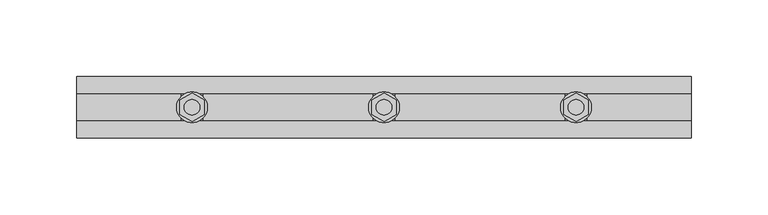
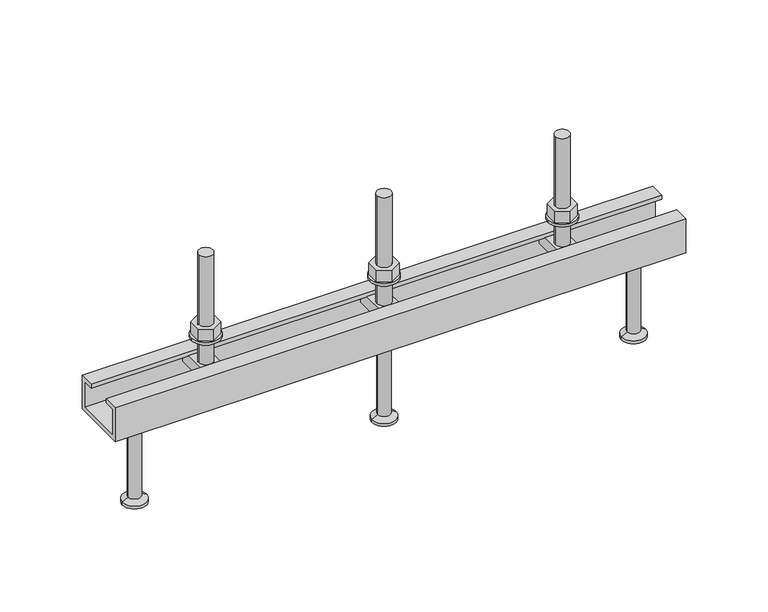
"""IFC4 building model written with IfcOpenShell, lengths in millimetres: fastener geometry, JTA-K JORDAHL® AnchorChannels : JTA-K L=400 mm."""

from ifc_helpers import new_model, si_unit, point, frame, frame_2d, origin, place, context, project, spatial, polyline, circle_curve, trimmed, segment, composite_curve, outline, extrude, source, transform, mapped, element, save
from ifc_brep_helpers import plane_surface, cylinder_surface, revolved_surface, advanced_brep


def fastener_97376ea7(model_context):
    return source(origin(), model_context, "Body", "SolidModel", [
        extrude(outline(polyline([(200.0, -9.2376043), (192.0, -4.6188022), (192.0, 4.6188022), (200.0, 9.2376043), (208.0, 4.6188022), (208.0, -4.6188022), (200.0, -9.2376043)]), holes=[composite_curve([segment(trimmed(circle_curve(frame_2d((200.0, 0.0)), 5.0), [point((195.0, 0.0))], [point((205.0, 0.0))], True, "CARTESIAN"), True, "CONTINUOUS"), segment(trimmed(circle_curve(frame_2d((200.0, 0.0)), 5.0), [point((205.0, 0.0))], [point((195.0, 0.0))], True, "CARTESIAN"), True, "CONTINUOUS")], self_intersect=False)]), frame((0.0, 0.0, 17.0), z_axis=(0.0, 0.0, 1.0), x_axis=(1.0, 0.0, 0.0)), (0.0, 0.0, 1.0), 8.4),
        extrude(outline(composite_curve([segment(trimmed(circle_curve(frame_2d((200.0, 0.0)), 10.0), [point((190.0, 0.0))], [point((210.0, 0.0))], False, "CARTESIAN"), True, "CONTINUOUS"), segment(trimmed(circle_curve(frame_2d((200.0, 0.0)), 10.0), [point((210.0, 0.0))], [point((190.0, 0.0))], False, "CARTESIAN"), True, "CONTINUOUS")], self_intersect=False), holes=[composite_curve([segment(trimmed(circle_curve(frame_2d((200.0, 0.0)), 5.25), [point((194.75, 0.0))], [point((205.25, 0.0))], True, "CARTESIAN"), True, "CONTINUOUS"), segment(trimmed(circle_curve(frame_2d((200.0, 0.0)), 5.25), [point((205.25, 0.0))], [point((194.75, 0.0))], True, "CARTESIAN"), True, "CONTINUOUS")], self_intersect=False)]), frame((0.0, 0.0, 15.0), z_axis=(0.0, 0.0, 1.0), x_axis=(1.0, 0.0, 0.0)), (0.0, 0.0, 1.0), 2.0),
        advanced_brep(
        [(207.0, -16.0, -3.0), (207.0, -16.0, -11.0), (207.0, 16.0, -11.0), (207.0, 16.0, -3.0), (193.0, -16.0, -3.0), (193.0, 16.0, -3.0), (193.0, 16.0, -11.0), (193.0, -16.0, -11.0), (205.0, 0.0, -3.0), (195.0, 0.0, -3.0), (195.0, 0.0, 77.0), (205.0, 0.0, 77.0)],
        [
            (0, 1),
            (1, 2),
            (2, 3),
            (3, 0),
            (4, 5),
            (5, 6),
            (6, 7),
            (7, 4),
            (3, 5),
            (4, 0),
            (8, 9, circle_curve(frame((200.0, 0.0, -3.0), z_axis=(0.0, 0.0, -1.0), x_axis=(1.0, 0.0, 0.0)), 5.0)),
            (9, 8, circle_curve(frame((200.0, 0.0, -3.0), z_axis=(0.0, 0.0, -1.0), x_axis=(1.0, 0.0, 0.0)), 5.0)),
            (2, 6),
            (1, 7),
            (10, 11, circle_curve(frame((200.0, 0.0, 77.0), z_axis=(0.0, 0.0, 1.0), x_axis=(1.0, 0.0, 0.0)), 5.0)),
            (11, 10, circle_curve(frame((200.0, 0.0, 77.0), z_axis=(0.0, 0.0, 1.0), x_axis=(1.0, 0.0, 0.0)), 5.0)),
            (11, 8),
            (9, 10),
        ],
        [
            plane_surface(frame((207.0, 16.0, -3.0), z_axis=(1.0, 0.0, 0.0), x_axis=(0.0, 1.0, 0.0))),
            plane_surface(frame((193.0, 16.0, -3.0), z_axis=(-1.0, 0.0, 0.0), x_axis=(0.0, -1.0, 0.0))),
            plane_surface(frame((207.0, -16.0, -3.0), z_axis=(0.0, 0.0, 1.0), x_axis=(-1.0, 0.0, 0.0))),
            plane_surface(frame((207.0, 16.0, -3.0), z_axis=(0.0, 1.0, 0.0), x_axis=(-1.0, 0.0, 0.0))),
            plane_surface(frame((207.0, 16.0, -11.0), z_axis=(0.0, 0.0, -1.0), x_axis=(-1.0, 0.0, 0.0))),
            plane_surface(frame((207.0, -16.0, -11.0), z_axis=(0.0, -1.0, 0.0), x_axis=(-1.0, 0.0, 0.0))),
            plane_surface(frame((205.0, 0.0, 77.0), z_axis=(0.0, 0.0, 1.0), x_axis=(0.0, -1.0, 0.0))),
            cylinder_surface(frame((200.0, 0.0, -3.0), z_axis=(0.0, 0.0, 1.0), x_axis=(1.0, 0.0, 0.0)), 5.0),
        ],
        [
            (0, [[1, 2, 3, 4]]),
            (1, [[5, 6, 7, 8]]),
            (2, [[9, -5, 10, -4], [11, 12]]),
            (3, [[13, -6, -9, -3]]),
            (4, [[14, -7, -13, -2]]),
            (5, [[-10, -8, -14, -1]]),
            (6, [[15, 16]]),
            (7, [[17, -12, 18, -16]]),
            (7, [[-18, -11, -17, -15]]),
        ],
    ),
        advanced_brep(
        [(200.0, 0.0, -25.0), (186.5, 0.0, -25.0), (213.5, 0.0, -25.0), (191.5, 0.0, -90.0), (200.0, 0.0, -90.0), (208.5, 0.0, -90.0), (191.5, 0.0, -88.0), (208.5, 0.0, -88.0), (195.5, 0.0, -85.6905989), (204.5, 0.0, -85.6905989), (195.5, 0.0, -27.5), (204.5, 0.0, -27.5)],
        [
            (0, 1),
            (1, 2, circle_curve(frame((200.0, 0.0, -25.0), z_axis=(0.0, 0.0, 1.0), x_axis=(1.0, 0.0, 0.0)), 13.5)),
            (2, 0),
            (2, 1, circle_curve(frame((200.0, 0.0, -25.0), z_axis=(0.0, 0.0, 1.0), x_axis=(1.0, 0.0, 0.0)), 13.5)),
            (3, 4),
            (4, 5),
            (5, 3, circle_curve(frame((200.0, 0.0, -90.0), z_axis=(0.0, 0.0, -1.0), x_axis=(1.0, 0.0, 0.0)), 8.5)),
            (3, 5, circle_curve(frame((200.0, 0.0, -90.0), z_axis=(0.0, 0.0, -1.0), x_axis=(1.0, 0.0, 0.0)), 8.5)),
            (6, 3),
            (5, 7),
            (7, 6, circle_curve(frame((200.0, 0.0, -88.0), z_axis=(0.0, 0.0, -1.0), x_axis=(1.0, 0.0, 0.0)), 8.5)),
            (6, 7, circle_curve(frame((200.0, 0.0, -88.0), z_axis=(0.0, 0.0, -1.0), x_axis=(1.0, 0.0, 0.0)), 8.5)),
            (8, 6),
            (7, 9),
            (9, 8, circle_curve(frame((200.0, 0.0, -85.6905989), z_axis=(0.0, 0.0, -1.0), x_axis=(1.0, 0.0, 0.0)), 4.5)),
            (8, 9, circle_curve(frame((200.0, 0.0, -85.6905989), z_axis=(0.0, 0.0, -1.0), x_axis=(1.0, 0.0, 0.0)), 4.5)),
            (10, 8),
            (9, 11),
            (11, 10, circle_curve(frame((200.0, 0.0, -27.5), z_axis=(0.0, 0.0, -1.0), x_axis=(1.0, 0.0, 0.0)), 4.5)),
            (10, 11, circle_curve(frame((200.0, 0.0, -27.5), z_axis=(0.0, 0.0, -1.0), x_axis=(1.0, 0.0, 0.0)), 4.5)),
            (1, 10),
            (11, 2),
        ],
        [
            plane_surface(frame((200.0, 0.0, -25.0), z_axis=(0.0, 0.0, 1.0), x_axis=(1.0, 0.0, 0.0))),
            plane_surface(frame((200.0, 0.0, -90.0), z_axis=(0.0, 0.0, -1.0), x_axis=(1.0, 0.0, 0.0))),
            cylinder_surface(frame((200.0, 0.0, 2279.3150031), z_axis=(0.0, 0.0, 1.0), x_axis=(1.0, 0.0, 0.0)), 8.5),
            revolved_surface(polyline([(208.5, 0.0, -88.0), (204.5, 0.0, -85.6905989)]), (200.0, 0.0, 2279.3150031), (0.0, 0.0, 1.0)),
            cylinder_surface(frame((200.0, 0.0, 2279.3150031), z_axis=(0.0, 0.0, 1.0), x_axis=(1.0, 0.0, 0.0)), 4.5),
            revolved_surface(polyline([(204.5, 0.0, -27.5), (213.5, 0.0, -25.0)]), (200.0, 0.0, 2279.3150031), (0.0, 0.0, 1.0)),
        ],
        [
            (0, [[1, 2, 3]]),
            (0, [[-3, 4, -1]]),
            (1, [[5, 6, 7]]),
            (1, [[-6, -5, 8]]),
            (2, [[9, -7, 10, 11]]),
            (2, [[-10, -8, -9, 12]]),
            (3, [[13, -11, 14, 15]]),
            (3, [[-14, -12, -13, 16]]),
            (4, [[17, -15, 18, 19]]),
            (4, [[-18, -16, -17, 20]]),
            (5, [[21, -19, 22, -2]]),
            (5, [[-22, -20, -21, -4]]),
        ],
    ),
        extrude(outline(polyline([(325.0, -9.2376043), (317.0, -4.6188022), (317.0, 4.6188022), (325.0, 9.2376043), (333.0, 4.6188022), (333.0, -4.6188022), (325.0, -9.2376043)]), holes=[composite_curve([segment(trimmed(circle_curve(frame_2d((325.0, 0.0)), 5.0), [point((320.0, 0.0))], [point((330.0, 0.0))], True, "CARTESIAN"), True, "CONTINUOUS"), segment(trimmed(circle_curve(frame_2d((325.0, 0.0)), 5.0), [point((330.0, 0.0))], [point((320.0, 0.0))], True, "CARTESIAN"), True, "CONTINUOUS")], self_intersect=False)]), frame((0.0, 0.0, 17.0), z_axis=(0.0, 0.0, 1.0), x_axis=(1.0, 0.0, 0.0)), (0.0, 0.0, 1.0), 8.4),
        extrude(outline(composite_curve([segment(trimmed(circle_curve(frame_2d((325.0, 0.0)), 10.0), [point((315.0, 0.0))], [point((335.0, 0.0))], False, "CARTESIAN"), True, "CONTINUOUS"), segment(trimmed(circle_curve(frame_2d((325.0, 0.0)), 10.0), [point((335.0, 0.0))], [point((315.0, 0.0))], False, "CARTESIAN"), True, "CONTINUOUS")], self_intersect=False), holes=[composite_curve([segment(trimmed(circle_curve(frame_2d((325.0, 0.0)), 5.25), [point((319.75, 0.0))], [point((330.25, 0.0))], True, "CARTESIAN"), True, "CONTINUOUS"), segment(trimmed(circle_curve(frame_2d((325.0, 0.0)), 5.25), [point((330.25, 0.0))], [point((319.75, 0.0))], True, "CARTESIAN"), True, "CONTINUOUS")], self_intersect=False)]), frame((0.0, 0.0, 15.0), z_axis=(0.0, 0.0, 1.0), x_axis=(1.0, 0.0, 0.0)), (0.0, 0.0, 1.0), 2.0),
        extrude(outline(polyline([(75.0, -9.2376043), (67.0, -4.6188022), (67.0, 4.6188022), (75.0, 9.2376043), (83.0, 4.6188022), (83.0, -4.6188022), (75.0, -9.2376043)]), holes=[composite_curve([segment(trimmed(circle_curve(frame_2d((75.0, 0.0)), 5.0), [point((70.0, 0.0))], [point((80.0, 0.0))], True, "CARTESIAN"), True, "CONTINUOUS"), segment(trimmed(circle_curve(frame_2d((75.0, 0.0)), 5.0), [point((80.0, 0.0))], [point((70.0, 0.0))], True, "CARTESIAN"), True, "CONTINUOUS")], self_intersect=False)]), frame((0.0, 0.0, 17.0), z_axis=(0.0, 0.0, 1.0), x_axis=(1.0, 0.0, 0.0)), (0.0, 0.0, 1.0), 8.4),
        extrude(outline(composite_curve([segment(trimmed(circle_curve(frame_2d((75.0, 0.0)), 10.0), [point((65.0, 0.0))], [point((85.0, 0.0))], False, "CARTESIAN"), True, "CONTINUOUS"), segment(trimmed(circle_curve(frame_2d((75.0, 0.0)), 10.0), [point((85.0, 0.0))], [point((65.0, 0.0))], False, "CARTESIAN"), True, "CONTINUOUS")], self_intersect=False), holes=[composite_curve([segment(trimmed(circle_curve(frame_2d((75.0, 0.0)), 5.25), [point((69.75, 0.0))], [point((80.25, 0.0))], True, "CARTESIAN"), True, "CONTINUOUS"), segment(trimmed(circle_curve(frame_2d((75.0, 0.0)), 5.25), [point((80.25, 0.0))], [point((69.75, 0.0))], True, "CARTESIAN"), True, "CONTINUOUS")], self_intersect=False)]), frame((0.0, 0.0, 15.0), z_axis=(0.0, 0.0, 1.0), x_axis=(1.0, 0.0, 0.0)), (0.0, 0.0, 1.0), 2.0),
        advanced_brep(
        [(332.0, -16.0, -3.0), (332.0, -16.0, -11.0), (332.0, 16.0, -11.0), (332.0, 16.0, -3.0), (318.0, -16.0, -3.0), (318.0, 16.0, -3.0), (318.0, 16.0, -11.0), (318.0, -16.0, -11.0), (330.0, 0.0, -3.0), (320.0, 0.0, -3.0), (320.0, 0.0, 77.0), (330.0, 0.0, 77.0)],
        [
            (0, 1),
            (1, 2),
            (2, 3),
            (3, 0),
            (4, 5),
            (5, 6),
            (6, 7),
            (7, 4),
            (3, 5),
            (4, 0),
            (8, 9, circle_curve(frame((325.0, 0.0, -3.0), z_axis=(0.0, 0.0, -1.0), x_axis=(1.0, 0.0, 0.0)), 5.0)),
            (9, 8, circle_curve(frame((325.0, 0.0, -3.0), z_axis=(0.0, 0.0, -1.0), x_axis=(1.0, 0.0, 0.0)), 5.0)),
            (2, 6),
            (1, 7),
            (10, 11, circle_curve(frame((325.0, 0.0, 77.0), z_axis=(0.0, 0.0, 1.0), x_axis=(1.0, 0.0, 0.0)), 5.0)),
            (11, 10, circle_curve(frame((325.0, 0.0, 77.0), z_axis=(0.0, 0.0, 1.0), x_axis=(1.0, 0.0, 0.0)), 5.0)),
            (11, 8),
            (9, 10),
        ],
        [
            plane_surface(frame((332.0, 16.0, -3.0), z_axis=(1.0, 0.0, 0.0), x_axis=(0.0, 1.0, 0.0))),
            plane_surface(frame((318.0, 16.0, -3.0), z_axis=(-1.0, 0.0, 0.0), x_axis=(0.0, -1.0, 0.0))),
            plane_surface(frame((332.0, -16.0, -3.0), z_axis=(0.0, 0.0, 1.0), x_axis=(-1.0, 0.0, 0.0))),
            plane_surface(frame((332.0, 16.0, -3.0), z_axis=(0.0, 1.0, 0.0), x_axis=(-1.0, 0.0, 0.0))),
            plane_surface(frame((332.0, 16.0, -11.0), z_axis=(0.0, 0.0, -1.0), x_axis=(-1.0, 0.0, 0.0))),
            plane_surface(frame((332.0, -16.0, -11.0), z_axis=(0.0, -1.0, 0.0), x_axis=(-1.0, 0.0, 0.0))),
            plane_surface(frame((330.0, 0.0, 77.0), z_axis=(0.0, 0.0, 1.0), x_axis=(0.0, -1.0, 0.0))),
            cylinder_surface(frame((325.0, 0.0, -3.0), z_axis=(0.0, 0.0, 1.0), x_axis=(1.0, 0.0, 0.0)), 5.0),
        ],
        [
            (0, [[1, 2, 3, 4]]),
            (1, [[5, 6, 7, 8]]),
            (2, [[9, -5, 10, -4], [11, 12]]),
            (3, [[13, -6, -9, -3]]),
            (4, [[14, -7, -13, -2]]),
            (5, [[-10, -8, -14, -1]]),
            (6, [[15, 16]]),
            (7, [[17, -12, 18, -16]]),
            (7, [[-18, -11, -17, -15]]),
        ],
    ),
        advanced_brep(
        [(82.0, -16.0, -3.0), (82.0, -16.0, -11.0), (82.0, 16.0, -11.0), (82.0, 16.0, -3.0), (68.0, -16.0, -3.0), (68.0, 16.0, -3.0), (68.0, 16.0, -11.0), (68.0, -16.0, -11.0), (80.0, 0.0, -3.0), (70.0, 0.0, -3.0), (70.0, 0.0, 77.0), (80.0, 0.0, 77.0)],
        [
            (0, 1),
            (1, 2),
            (2, 3),
            (3, 0),
            (4, 5),
            (5, 6),
            (6, 7),
            (7, 4),
            (3, 5),
            (4, 0),
            (8, 9, circle_curve(frame((75.0, 0.0, -3.0), z_axis=(0.0, 0.0, -1.0), x_axis=(1.0, 0.0, 0.0)), 5.0)),
            (9, 8, circle_curve(frame((75.0, 0.0, -3.0), z_axis=(0.0, 0.0, -1.0), x_axis=(1.0, 0.0, 0.0)), 5.0)),
            (2, 6),
            (1, 7),
            (10, 11, circle_curve(frame((75.0, 0.0, 77.0), z_axis=(0.0, 0.0, 1.0), x_axis=(1.0, 0.0, 0.0)), 5.0)),
            (11, 10, circle_curve(frame((75.0, 0.0, 77.0), z_axis=(0.0, 0.0, 1.0), x_axis=(1.0, 0.0, 0.0)), 5.0)),
            (11, 8),
            (9, 10),
        ],
        [
            plane_surface(frame((82.0, 16.0, -3.0), z_axis=(1.0, 0.0, 0.0), x_axis=(0.0, 1.0, 0.0))),
            plane_surface(frame((68.0, 16.0, -3.0), z_axis=(-1.0, 0.0, 0.0), x_axis=(0.0, -1.0, 0.0))),
            plane_surface(frame((82.0, -16.0, -3.0), z_axis=(0.0, 0.0, 1.0), x_axis=(-1.0, 0.0, 0.0))),
            plane_surface(frame((82.0, 16.0, -3.0), z_axis=(0.0, 1.0, 0.0), x_axis=(-1.0, 0.0, 0.0))),
            plane_surface(frame((82.0, 16.0, -11.0), z_axis=(0.0, 0.0, -1.0), x_axis=(-1.0, 0.0, 0.0))),
            plane_surface(frame((82.0, -16.0, -11.0), z_axis=(0.0, -1.0, 0.0), x_axis=(-1.0, 0.0, 0.0))),
            plane_surface(frame((80.0, 0.0, 77.0), z_axis=(0.0, 0.0, 1.0), x_axis=(0.0, -1.0, 0.0))),
            cylinder_surface(frame((75.0, 0.0, -3.0), z_axis=(0.0, 0.0, 1.0), x_axis=(1.0, 0.0, 0.0)), 5.0),
        ],
        [
            (0, [[1, 2, 3, 4]]),
            (1, [[5, 6, 7, 8]]),
            (2, [[9, -5, 10, -4], [11, 12]]),
            (3, [[13, -6, -9, -3]]),
            (4, [[14, -7, -13, -2]]),
            (5, [[-10, -8, -14, -1]]),
            (6, [[15, 16]]),
            (7, [[17, -12, 18, -16]]),
            (7, [[-18, -11, -17, -15]]),
        ],
    ),
        advanced_brep(
        [(375.0, 0.0, -25.0), (361.5, 0.0, -25.0), (388.5, 0.0, -25.0), (366.5, 0.0, -90.0), (375.0, 0.0, -90.0), (383.5, 0.0, -90.0), (366.5, 0.0, -88.0), (383.5, 0.0, -88.0), (370.5, 0.0, -85.6905989), (379.5, 0.0, -85.6905989), (370.5, 0.0, -27.5), (379.5, 0.0, -27.5)],
        [
            (0, 1),
            (1, 2, circle_curve(frame((375.0, 0.0, -25.0), z_axis=(0.0, 0.0, 1.0), x_axis=(1.0, 0.0, 0.0)), 13.5)),
            (2, 0),
            (2, 1, circle_curve(frame((375.0, 0.0, -25.0), z_axis=(0.0, 0.0, 1.0), x_axis=(1.0, 0.0, 0.0)), 13.5)),
            (3, 4),
            (4, 5),
            (5, 3, circle_curve(frame((375.0, 0.0, -90.0), z_axis=(0.0, 0.0, -1.0), x_axis=(1.0, 0.0, 0.0)), 8.5)),
            (3, 5, circle_curve(frame((375.0, 0.0, -90.0), z_axis=(0.0, 0.0, -1.0), x_axis=(1.0, 0.0, 0.0)), 8.5)),
            (6, 3),
            (5, 7),
            (7, 6, circle_curve(frame((375.0, 0.0, -88.0), z_axis=(0.0, 0.0, -1.0), x_axis=(1.0, 0.0, 0.0)), 8.5)),
            (6, 7, circle_curve(frame((375.0, 0.0, -88.0), z_axis=(0.0, 0.0, -1.0), x_axis=(1.0, 0.0, 0.0)), 8.5)),
            (8, 6),
            (7, 9),
            (9, 8, circle_curve(frame((375.0, 0.0, -85.6905989), z_axis=(0.0, 0.0, -1.0), x_axis=(1.0, 0.0, 0.0)), 4.5)),
            (8, 9, circle_curve(frame((375.0, 0.0, -85.6905989), z_axis=(0.0, 0.0, -1.0), x_axis=(1.0, 0.0, 0.0)), 4.5)),
            (10, 8),
            (9, 11),
            (11, 10, circle_curve(frame((375.0, 0.0, -27.5), z_axis=(0.0, 0.0, -1.0), x_axis=(1.0, 0.0, 0.0)), 4.5)),
            (10, 11, circle_curve(frame((375.0, 0.0, -27.5), z_axis=(0.0, 0.0, -1.0), x_axis=(1.0, 0.0, 0.0)), 4.5)),
            (1, 10),
            (11, 2),
        ],
        [
            plane_surface(frame((375.0, 0.0, -25.0), z_axis=(0.0, 0.0, 1.0), x_axis=(1.0, 0.0, 0.0))),
            plane_surface(frame((375.0, 0.0, -90.0), z_axis=(0.0, 0.0, -1.0), x_axis=(1.0, 0.0, 0.0))),
            cylinder_surface(frame((375.0, 0.0, 2279.3150031), z_axis=(0.0, 0.0, 1.0), x_axis=(1.0, 0.0, 0.0)), 8.5),
            revolved_surface(polyline([(383.5, 0.0, -88.0), (379.5, 0.0, -85.6905989)]), (375.0, 0.0, 2279.3150031), (0.0, 0.0, 1.0)),
            cylinder_surface(frame((375.0, 0.0, 2279.3150031), z_axis=(0.0, 0.0, 1.0), x_axis=(1.0, 0.0, 0.0)), 4.5),
            revolved_surface(polyline([(379.5, 0.0, -27.5), (388.5, 0.0, -25.0)]), (375.0, 0.0, 2279.3150031), (0.0, 0.0, 1.0)),
        ],
        [
            (0, [[1, 2, 3]]),
            (0, [[-3, 4, -1]]),
            (1, [[5, 6, 7]]),
            (1, [[-6, -5, 8]]),
            (2, [[9, -7, 10, 11]]),
            (2, [[-10, -8, -9, 12]]),
            (3, [[13, -11, 14, 15]]),
            (3, [[-14, -12, -13, 16]]),
            (4, [[17, -15, 18, 19]]),
            (4, [[-18, -16, -17, 20]]),
            (5, [[21, -19, 22, -2]]),
            (5, [[-22, -20, -21, -4]]),
        ],
    ),
        advanced_brep(
        [(25.0, 0.0, -25.0), (11.5, 0.0, -25.0), (38.5, 0.0, -25.0), (16.5, 0.0, -90.0), (25.0, 0.0, -90.0), (33.5, 0.0, -90.0), (16.5, 0.0, -88.0), (33.5, 0.0, -88.0), (20.5, 0.0, -85.6905989), (29.5, 0.0, -85.6905989), (20.5, 0.0, -27.5), (29.5, 0.0, -27.5)],
        [
            (0, 1),
            (1, 2, circle_curve(frame((25.0, 0.0, -25.0), z_axis=(0.0, 0.0, 1.0), x_axis=(1.0, 0.0, 0.0)), 13.5)),
            (2, 0),
            (2, 1, circle_curve(frame((25.0, 0.0, -25.0), z_axis=(0.0, 0.0, 1.0), x_axis=(1.0, 0.0, 0.0)), 13.5)),
            (3, 4),
            (4, 5),
            (5, 3, circle_curve(frame((25.0, 0.0, -90.0), z_axis=(0.0, 0.0, -1.0), x_axis=(1.0, 0.0, 0.0)), 8.5)),
            (3, 5, circle_curve(frame((25.0, 0.0, -90.0), z_axis=(0.0, 0.0, -1.0), x_axis=(1.0, 0.0, 0.0)), 8.5)),
            (6, 3),
            (5, 7),
            (7, 6, circle_curve(frame((25.0, 0.0, -88.0), z_axis=(0.0, 0.0, -1.0), x_axis=(1.0, 0.0, 0.0)), 8.5)),
            (6, 7, circle_curve(frame((25.0, 0.0, -88.0), z_axis=(0.0, 0.0, -1.0), x_axis=(1.0, 0.0, 0.0)), 8.5)),
            (8, 6),
            (7, 9),
            (9, 8, circle_curve(frame((25.0, 0.0, -85.6905989), z_axis=(0.0, 0.0, -1.0), x_axis=(1.0, 0.0, 0.0)), 4.5)),
            (8, 9, circle_curve(frame((25.0, 0.0, -85.6905989), z_axis=(0.0, 0.0, -1.0), x_axis=(1.0, 0.0, 0.0)), 4.5)),
            (10, 8),
            (9, 11),
            (11, 10, circle_curve(frame((25.0, 0.0, -27.5), z_axis=(0.0, 0.0, -1.0), x_axis=(1.0, 0.0, 0.0)), 4.5)),
            (10, 11, circle_curve(frame((25.0, 0.0, -27.5), z_axis=(0.0, 0.0, -1.0), x_axis=(1.0, 0.0, 0.0)), 4.5)),
            (1, 10),
            (11, 2),
        ],
        [
            plane_surface(frame((25.0, 0.0, -25.0), z_axis=(0.0, 0.0, 1.0), x_axis=(1.0, 0.0, 0.0))),
            plane_surface(frame((25.0, 0.0, -90.0), z_axis=(0.0, 0.0, -1.0), x_axis=(1.0, 0.0, 0.0))),
            cylinder_surface(frame((25.0, 0.0, 2279.3150031), z_axis=(0.0, 0.0, 1.0), x_axis=(1.0, 0.0, 0.0)), 8.5),
            revolved_surface(polyline([(33.5, 0.0, -88.0), (29.5, 0.0, -85.6905989)]), (25.0, 0.0, 2279.3150031), (0.0, 0.0, 1.0)),
            cylinder_surface(frame((25.0, 0.0, 2279.3150031), z_axis=(0.0, 0.0, 1.0), x_axis=(1.0, 0.0, 0.0)), 4.5),
            revolved_surface(polyline([(29.5, 0.0, -27.5), (38.5, 0.0, -25.0)]), (25.0, 0.0, 2279.3150031), (0.0, 0.0, 1.0)),
        ],
        [
            (0, [[1, 2, 3]]),
            (0, [[-3, 4, -1]]),
            (1, [[5, 6, 7]]),
            (1, [[-6, -5, 8]]),
            (2, [[9, -7, 10, 11]]),
            (2, [[-10, -8, -9, 12]]),
            (3, [[13, -11, 14, 15]]),
            (3, [[-14, -12, -13, 16]]),
            (4, [[17, -15, 18, 19]]),
            (4, [[-18, -16, -17, 20]]),
            (5, [[21, -19, 22, -2]]),
            (5, [[-22, -20, -21, -4]]),
        ],
    ),
        extrude(outline(polyline([(-20.0, 0.0), (-9.0, 0.0), (-9.0, -3.0), (-17.0, -3.0), (-17.0, -22.0), (17.0, -22.0), (17.0, -3.0), (9.0, -3.0), (9.0, 0.0), (20.0, 0.0), (20.0, -25.0), (-20.0, -25.0), (-20.0, 0.0)])), frame((0.0, 0.0, 0.0), z_axis=(1.0, 0.0, 0.0), x_axis=(0.0, 1.0, 0.0)), (0.0, 0.0, 1.0), 400.0),
    ])


if __name__ == "__main__":
    model = new_model("IFC4")
    model_context = context("Model", 3, world=origin())
    ifc_project = project(units=[si_unit("LENGTHUNIT", "METRE", prefix="MILLI")], contexts=[model_context])
    site = spatial("IfcSite", under=ifc_project)
    building = spatial("IfcBuilding", under=site)
    placement = place(None, origin())
    fastener_shape = fastener_97376ea7(model_context)
    element("IfcFastener", 1, ObjectType="JTA-K JORDAHL® AnchorChannels : JTA-K L=400 mm", at=placement, inside=building, context=model_context, shape_type="MappedRepresentation", body=[
        mapped(fastener_shape, transform((0.0, 0.0, 0.0), x_axis=(1.0, 0.0, 0.0), y_axis=(0.0, 1.0, 0.0), z_axis=(0.0, 0.0, 1.0))),
    ])
    save(model, "model.ifc")
